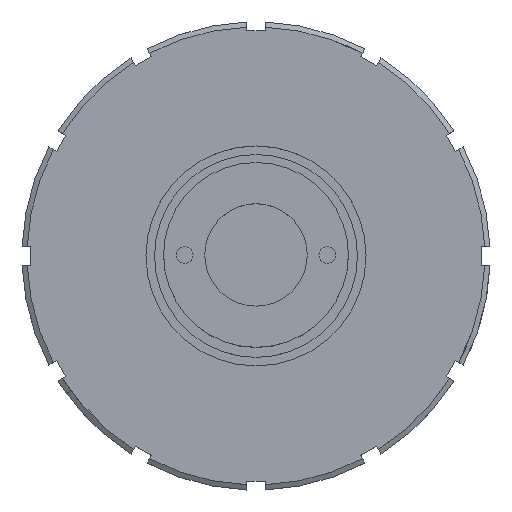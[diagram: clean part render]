
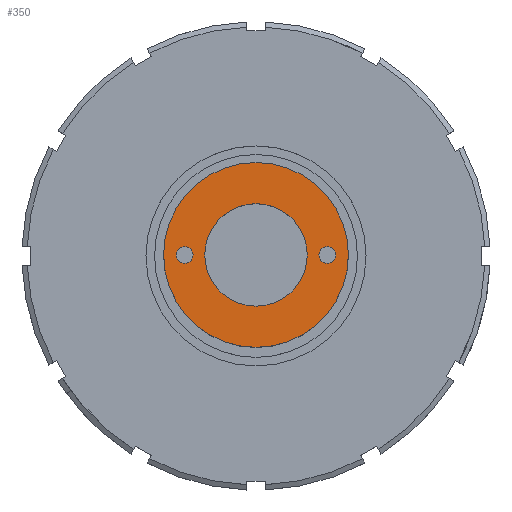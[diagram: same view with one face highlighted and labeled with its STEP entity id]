
A CAD part, top view. The second image highlights one B-rep face of the part: STEP entity #350.
In plain terms, the highlighted planar face has unit normal (0, 0, 1).
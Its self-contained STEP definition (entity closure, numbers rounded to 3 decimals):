
#191 = CYLINDRICAL_SURFACE('',#192,5.5);
#192 = AXIS2_PLACEMENT_3D('',#193,#194,#195);
#193 = CARTESIAN_POINT('',(0.,0.,20.6));
#194 = DIRECTION('',(0.,0.,1.));
#195 = DIRECTION('',(1.,0.,-0.));
#264 = EDGE_CURVE('',#265,#265,#267,.T.);
#265 = VERTEX_POINT('',#266);
#266 = CARTESIAN_POINT('',(5.5,0.,25.1));
#267 = SURFACE_CURVE('',#268,(#273,#280),.PCURVE_S1.);
#268 = CIRCLE('',#269,5.5);
#269 = AXIS2_PLACEMENT_3D('',#270,#271,#272);
#270 = CARTESIAN_POINT('',(0.,0.,25.1));
#271 = DIRECTION('',(0.,0.,1.));
#272 = DIRECTION('',(1.,0.,-0.));
#273 = PCURVE('',#191,#274);
#274 = DEFINITIONAL_REPRESENTATION('',(#275),#279);
#275 = LINE('',#276,#277);
#276 = CARTESIAN_POINT('',(0.,4.5));
#277 = VECTOR('',#278,1.);
#278 = DIRECTION('',(1.,0.));
#279 = ( GEOMETRIC_REPRESENTATION_CONTEXT(2) 
PARAMETRIC_REPRESENTATION_CONTEXT() REPRESENTATION_CONTEXT('2D SPACE',''
  ) );
#280 = PCURVE('',#281,#286);
#281 = PLANE('',#282);
#282 = AXIS2_PLACEMENT_3D('',#283,#284,#285);
#283 = CARTESIAN_POINT('',(0.,0.,25.1));
#284 = DIRECTION('',(0.,0.,1.));
#285 = DIRECTION('',(1.,0.,-0.));
#286 = DEFINITIONAL_REPRESENTATION('',(#287),#291);
#287 = CIRCLE('',#288,5.5);
#288 = AXIS2_PLACEMENT_2D('',#289,#290);
#289 = CARTESIAN_POINT('',(0.,0.));
#290 = DIRECTION('',(1.,0.));
#291 = ( GEOMETRIC_REPRESENTATION_CONTEXT(2) 
PARAMETRIC_REPRESENTATION_CONTEXT() REPRESENTATION_CONTEXT('2D SPACE',''
  ) );
#350 = ADVANCED_FACE('',(#351,#354,#385,#416),#281,.T.);
#351 = FACE_BOUND('',#352,.T.);
#352 = EDGE_LOOP('',(#353));
#353 = ORIENTED_EDGE('',*,*,#264,.T.);
#354 = FACE_BOUND('',#355,.T.);
#355 = EDGE_LOOP('',(#356));
#356 = ORIENTED_EDGE('',*,*,#357,.F.);
#357 = EDGE_CURVE('',#358,#358,#360,.T.);
#358 = VERTEX_POINT('',#359);
#359 = CARTESIAN_POINT('',(-3.75,0.,25.1));
#360 = SURFACE_CURVE('',#361,(#366,#373),.PCURVE_S1.);
#361 = CIRCLE('',#362,0.5);
#362 = AXIS2_PLACEMENT_3D('',#363,#364,#365);
#363 = CARTESIAN_POINT('',(-4.25,0.,25.1));
#364 = DIRECTION('',(0.,0.,1.));
#365 = DIRECTION('',(1.,0.,-0.));
#366 = PCURVE('',#281,#367);
#367 = DEFINITIONAL_REPRESENTATION('',(#368),#372);
#368 = CIRCLE('',#369,0.5);
#369 = AXIS2_PLACEMENT_2D('',#370,#371);
#370 = CARTESIAN_POINT('',(-4.25,0.));
#371 = DIRECTION('',(1.,0.));
#372 = ( GEOMETRIC_REPRESENTATION_CONTEXT(2) 
PARAMETRIC_REPRESENTATION_CONTEXT() REPRESENTATION_CONTEXT('2D SPACE',''
  ) );
#373 = PCURVE('',#374,#379);
#374 = CYLINDRICAL_SURFACE('',#375,0.5);
#375 = AXIS2_PLACEMENT_3D('',#376,#377,#378);
#376 = CARTESIAN_POINT('',(-4.25,0.,23.1));
#377 = DIRECTION('',(0.,0.,1.));
#378 = DIRECTION('',(1.,0.,-0.));
#379 = DEFINITIONAL_REPRESENTATION('',(#380),#384);
#380 = LINE('',#381,#382);
#381 = CARTESIAN_POINT('',(0.,2.));
#382 = VECTOR('',#383,1.);
#383 = DIRECTION('',(1.,0.));
#384 = ( GEOMETRIC_REPRESENTATION_CONTEXT(2) 
PARAMETRIC_REPRESENTATION_CONTEXT() REPRESENTATION_CONTEXT('2D SPACE',''
  ) );
#385 = FACE_BOUND('',#386,.T.);
#386 = EDGE_LOOP('',(#387));
#387 = ORIENTED_EDGE('',*,*,#388,.F.);
#388 = EDGE_CURVE('',#389,#389,#391,.T.);
#389 = VERTEX_POINT('',#390);
#390 = CARTESIAN_POINT('',(3.05,0.,25.1));
#391 = SURFACE_CURVE('',#392,(#397,#404),.PCURVE_S1.);
#392 = CIRCLE('',#393,3.05);
#393 = AXIS2_PLACEMENT_3D('',#394,#395,#396);
#394 = CARTESIAN_POINT('',(0.,0.,25.1));
#395 = DIRECTION('',(0.,0.,1.));
#396 = DIRECTION('',(1.,0.,-0.));
#397 = PCURVE('',#281,#398);
#398 = DEFINITIONAL_REPRESENTATION('',(#399),#403);
#399 = CIRCLE('',#400,3.05);
#400 = AXIS2_PLACEMENT_2D('',#401,#402);
#401 = CARTESIAN_POINT('',(0.,0.));
#402 = DIRECTION('',(1.,0.));
#403 = ( GEOMETRIC_REPRESENTATION_CONTEXT(2) 
PARAMETRIC_REPRESENTATION_CONTEXT() REPRESENTATION_CONTEXT('2D SPACE',''
  ) );
#404 = PCURVE('',#405,#410);
#405 = CYLINDRICAL_SURFACE('',#406,3.05);
#406 = AXIS2_PLACEMENT_3D('',#407,#408,#409);
#407 = CARTESIAN_POINT('',(0.,0.,22.6));
#408 = DIRECTION('',(0.,0.,1.));
#409 = DIRECTION('',(1.,0.,-0.));
#410 = DEFINITIONAL_REPRESENTATION('',(#411),#415);
#411 = LINE('',#412,#413);
#412 = CARTESIAN_POINT('',(0.,2.5));
#413 = VECTOR('',#414,1.);
#414 = DIRECTION('',(1.,0.));
#415 = ( GEOMETRIC_REPRESENTATION_CONTEXT(2) 
PARAMETRIC_REPRESENTATION_CONTEXT() REPRESENTATION_CONTEXT('2D SPACE',''
  ) );
#416 = FACE_BOUND('',#417,.T.);
#417 = EDGE_LOOP('',(#418));
#418 = ORIENTED_EDGE('',*,*,#419,.F.);
#419 = EDGE_CURVE('',#420,#420,#422,.T.);
#420 = VERTEX_POINT('',#421);
#421 = CARTESIAN_POINT('',(4.75,0.,25.1));
#422 = SURFACE_CURVE('',#423,(#428,#435),.PCURVE_S1.);
#423 = CIRCLE('',#424,0.5);
#424 = AXIS2_PLACEMENT_3D('',#425,#426,#427);
#425 = CARTESIAN_POINT('',(4.25,0.,25.1));
#426 = DIRECTION('',(0.,0.,1.));
#427 = DIRECTION('',(1.,0.,-0.));
#428 = PCURVE('',#281,#429);
#429 = DEFINITIONAL_REPRESENTATION('',(#430),#434);
#430 = CIRCLE('',#431,0.5);
#431 = AXIS2_PLACEMENT_2D('',#432,#433);
#432 = CARTESIAN_POINT('',(4.25,0.));
#433 = DIRECTION('',(1.,0.));
#434 = ( GEOMETRIC_REPRESENTATION_CONTEXT(2) 
PARAMETRIC_REPRESENTATION_CONTEXT() REPRESENTATION_CONTEXT('2D SPACE',''
  ) );
#435 = PCURVE('',#436,#441);
#436 = CYLINDRICAL_SURFACE('',#437,0.5);
#437 = AXIS2_PLACEMENT_3D('',#438,#439,#440);
#438 = CARTESIAN_POINT('',(4.25,0.,23.1));
#439 = DIRECTION('',(0.,0.,1.));
#440 = DIRECTION('',(1.,0.,-0.));
#441 = DEFINITIONAL_REPRESENTATION('',(#442),#446);
#442 = LINE('',#443,#444);
#443 = CARTESIAN_POINT('',(0.,2.));
#444 = VECTOR('',#445,1.);
#445 = DIRECTION('',(1.,0.));
#446 = ( GEOMETRIC_REPRESENTATION_CONTEXT(2) 
PARAMETRIC_REPRESENTATION_CONTEXT() REPRESENTATION_CONTEXT('2D SPACE',''
  ) );
